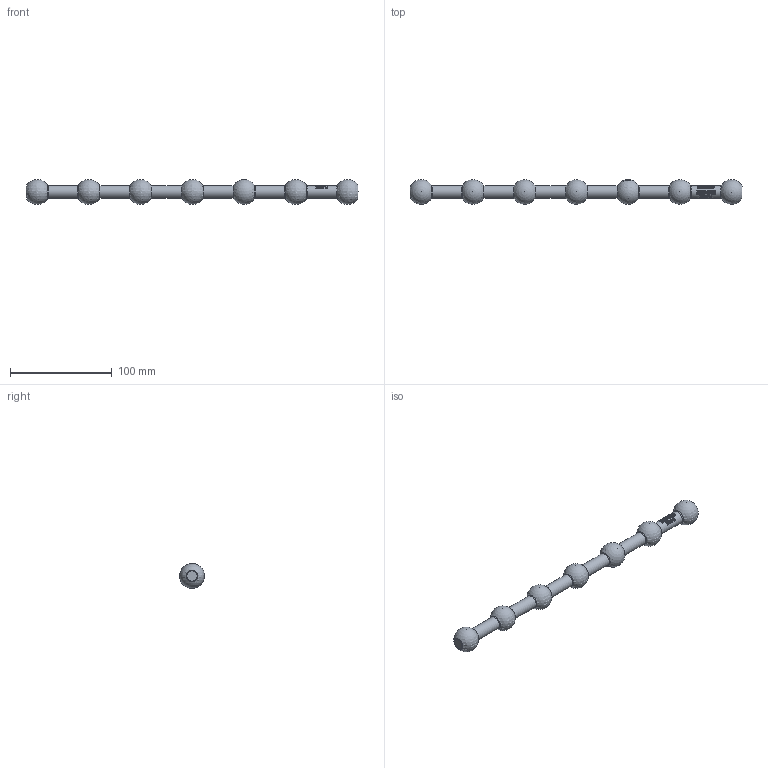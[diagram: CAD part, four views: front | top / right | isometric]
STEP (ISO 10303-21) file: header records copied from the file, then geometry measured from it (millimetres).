
FILE_DESCRIPTION(/* description */ (''),/* implementation_level */ '2;1');
FILE_NAME(/* name */ 'C:\Users\owner\Desktop\PL-HYPERLINKS_3D_stp\PL-HLINK12IN.stp',/* time_stamp */ '2017-09-29T15:01:12-04:00',/* author */ ('owner'),/* organization */ (''),/* preprocessor_version */ 'ST-DEVELOPER v16.5',/* originating_system */ 'Autodesk Inventor 2017',/* authorisation */ '');
FILE_SCHEMA (('CONFIG_CONTROL_DESIGN'));
Length unit declared in the file: inch
Products named in the file (4): PL-HLINK12IN; 60032; 60033-1; 60033-2
Assembly tree (7 placements, depth 2):
  PL-HLINK12IN
    60033-1  x5
    60032
    60033-2
Bounding box: 325.75 x 24.35 x 24.37 mm (x, y, z)
Volume: 72096.6 mm3; surface area: 25207.2 mm2
Topology: 7 solids, 7 shells, 812 faces, 2151 edges, 1424 vertices
Faces by surface type: plane 365, bspline 305, cylinder 90, torus 25, cone 20, sphere 7
Full cylindrical faces by diameter (mm): 9.487 x6, 9.525 x7, 9.588 x6, 12.611 x6
Entity records: 29074 total; most frequent: CARTESIAN_POINT 11945, ORIENTED_EDGE 3956, DIRECTION 2710, EDGE_CURVE 1978, VERTEX_POINT 1326, LINE 966, VECTOR 966, AXIS2_PLACEMENT_3D 872
